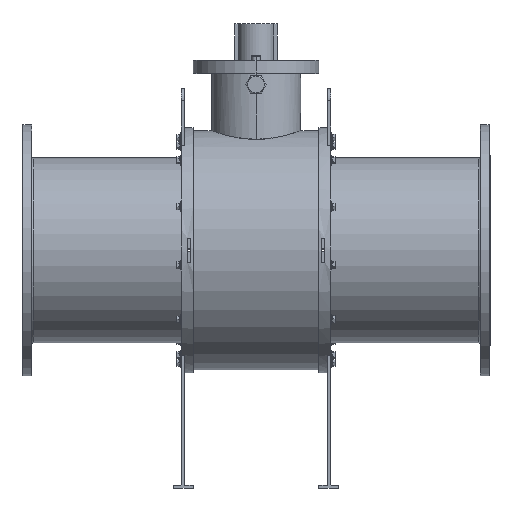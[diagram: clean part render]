
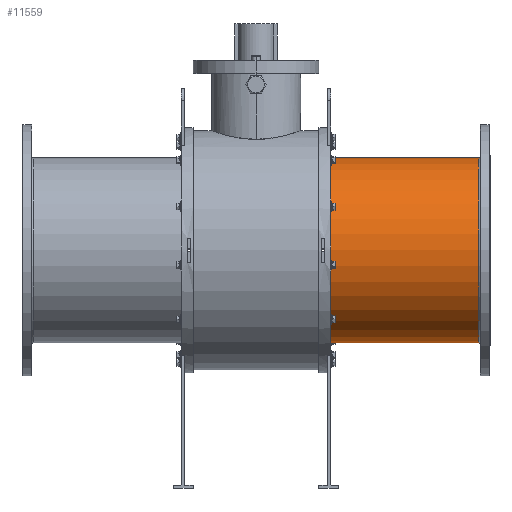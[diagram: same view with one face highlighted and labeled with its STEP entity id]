
A CAD part, top view. The second image highlights one B-rep face of the part: STEP entity #11559.
In plain terms, the highlighted cylindrical face has radius 305.75 mm (diameter 611.5 mm), a partial arc.
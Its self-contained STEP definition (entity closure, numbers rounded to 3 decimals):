
#94 = VERTEX_POINT ( 'NONE', #139 ) ;
#139 = CARTESIAN_POINT ( 'NONE',  ( 737.5, -305.75, 0. ) ) ;
#332 = FACE_OUTER_BOUND ( 'NONE', #12940, .T. ) ;
#753 = CARTESIAN_POINT ( 'NONE',  ( 737.5, 0., 0. ) ) ;
#768 = CARTESIAN_POINT ( 'NONE',  ( -774.5, 305.75, 0. ) ) ;
#854 = VECTOR ( 'NONE', #12339, 1000. ) ;
#2447 = VERTEX_POINT ( 'NONE', #12914 ) ;
#3650 = DIRECTION ( 'NONE',  ( -1., 0., 0. ) ) ;
#3653 = DIRECTION ( 'NONE',  ( 1., 0., 0. ) ) ;
#3715 = DIRECTION ( 'NONE',  ( 0., 0., -1. ) ) ;
#4126 = EDGE_CURVE ( 'NONE', #94, #2447, #7021, .T. ) ;
#4232 = ORIENTED_EDGE ( 'NONE', *, *, #5394, .T. ) ;
#4278 = EDGE_CURVE ( 'NONE', #94, #11167, #11604, .T. ) ;
#4702 = CYLINDRICAL_SURFACE ( 'NONE', #6714, 305.75 ) ;
#4729 = CIRCLE ( 'NONE', #13335, 305.75 ) ;
#4773 = DIRECTION ( 'NONE',  ( 0., -1., 0. ) ) ;
#5394 = EDGE_CURVE ( 'NONE', #9287, #2447, #4729, .T. ) ;
#5484 = AXIS2_PLACEMENT_3D ( 'NONE', #753, #6096, #10459 ) ;
#5556 = EDGE_CURVE ( 'NONE', #11167, #9287, #9445, .T. ) ;
#6096 = DIRECTION ( 'NONE',  ( -1., 0., 0. ) ) ;
#6651 = CARTESIAN_POINT ( 'NONE',  ( 737.5, 305.75, 0. ) ) ;
#6714 = AXIS2_PLACEMENT_3D ( 'NONE', #7031, #3650, #4773 ) ;
#6872 = CARTESIAN_POINT ( 'NONE',  ( 247.5, 305.75, 0. ) ) ;
#6873 = CARTESIAN_POINT ( 'NONE',  ( -774.5, -305.75, 0. ) ) ;
#7021 = LINE ( 'NONE', #6873, #854 ) ;
#7031 = CARTESIAN_POINT ( 'NONE',  ( -774.5, 0., 0. ) ) ;
#9287 = VERTEX_POINT ( 'NONE', #6872 ) ;
#9445 = LINE ( 'NONE', #768, #11320 ) ;
#10000 = ORIENTED_EDGE ( 'NONE', *, *, #4278, .T. ) ;
#10185 = CARTESIAN_POINT ( 'NONE',  ( 247.5, 0., 0. ) ) ;
#10459 = DIRECTION ( 'NONE',  ( 0., 1., 0. ) ) ;
#11167 = VERTEX_POINT ( 'NONE', #6651 ) ;
#11320 = VECTOR ( 'NONE', #13628, 1000. ) ;
#11559 = ADVANCED_FACE ( 'NONE', ( #332 ), #4702, .T. ) ;
#11604 = CIRCLE ( 'NONE', #5484, 305.75 ) ;
#12246 = ORIENTED_EDGE ( 'NONE', *, *, #5556, .T. ) ;
#12339 = DIRECTION ( 'NONE',  ( -1., 0., 0. ) ) ;
#12914 = CARTESIAN_POINT ( 'NONE',  ( 247.5, -305.75, 0. ) ) ;
#12940 = EDGE_LOOP ( 'NONE', ( #10000, #12246, #4232, #13592 ) ) ;
#13335 = AXIS2_PLACEMENT_3D ( 'NONE', #10185, #3653, #3715 ) ;
#13592 = ORIENTED_EDGE ( 'NONE', *, *, #4126, .F. ) ;
#13628 = DIRECTION ( 'NONE',  ( -1., 0., 0. ) ) ;
